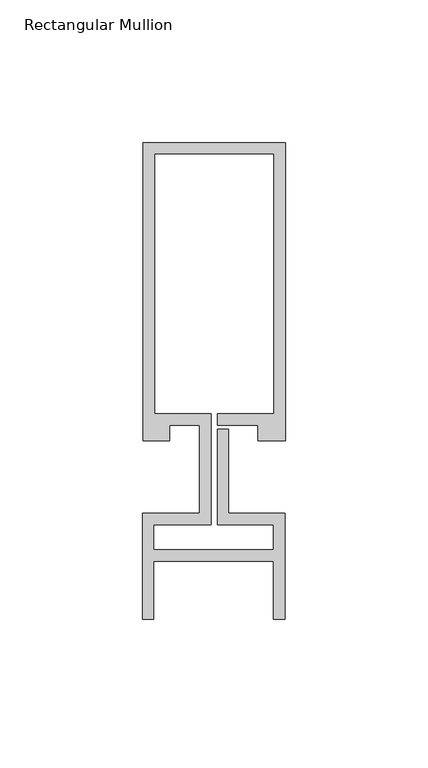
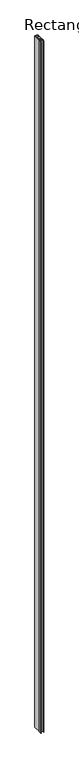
"""IFC4 building model written with IfcOpenShell, lengths in millimetres: member geometry, Rectangular Mullion : Reynaers_CW-50_Transom-Transom_104.5mm_Facecap-03."""

from ifc_helpers import new_model, si_unit, frame, origin, place, context, project, spatial, polyline, outline, extrude, source, transform, mapped, element, save


def rectangular_mullion_d9bfe010(model_context):
    return source(origin(), model_context, "Body", "SweptSolid", [
        extrude(outline(polyline([(25.1995941, 12.7331291), (15.499, 12.7331291), (15.499, 18.1331291), (1.2995941, 18.1331291), (1.2995941, 22.1331291), (21.1995941, 22.1331291), (21.1995941, 113.2331291), (-20.8004059, 113.2331291), (-20.8004059, 22.1331291), (-0.9004059, 22.1331291), (-0.9004059, -16.7331291), (-20.994845, -16.7331291), (-20.994845, -25.5600018), (20.994845, -25.5600018), (20.994845, -16.7331291), (1.2995941, -16.7331291), (1.2995941, 16.7615089), (5.2995941, 16.7615089), (5.2995941, -12.7331291), (24.994845, -12.7331291), (24.994845, -50.0331291), (20.994845, -50.0331291), (20.994845, -29.5600018), (-20.994845, -29.5600018), (-20.994845, -50.0331291), (-24.994845, -50.0331291), (-24.994845, -12.7331291), (-4.9004059, -12.7331291), (-4.9004059, 18.1331291), (-15.499, 18.1331291), (-15.499, 12.7331291), (-24.8004059, 12.7331291), (-24.8004059, 117.2331291), (25.1995941, 117.2331291), (25.1995941, 12.7331291)])), frame((0.0, 0.0, -12000.0), z_axis=(0.0, 0.0, 1.0), x_axis=(1.0, 0.0, 0.0)), (0.0, 0.0, 1.0), 12000.0),
    ])


if __name__ == "__main__":
    model = new_model("IFC4")
    model_context = context("Model", 3, world=origin())
    ifc_project = project(units=[si_unit("LENGTHUNIT", "METRE", prefix="MILLI")], contexts=[model_context])
    site = spatial("IfcSite", under=ifc_project)
    building = spatial("IfcBuilding", under=site)
    placement = place(None, origin())
    rectangular_mullion_shape = rectangular_mullion_d9bfe010(model_context)
    element("IfcMember", 1, ObjectType="Rectangular Mullion : Reynaers_CW-50_Transom-Transom_104.5mm_Facecap-03", at=placement, inside=building, context=model_context, shape_type="MappedRepresentation", body=[
        mapped(rectangular_mullion_shape, transform((0.0, 0.0, 0.0), x_axis=(1.0, 0.0, 0.0), y_axis=(0.0, 1.0, 0.0), z_axis=(0.0, 0.0, 1.0))),
    ])
    save(model, "model.ifc")
